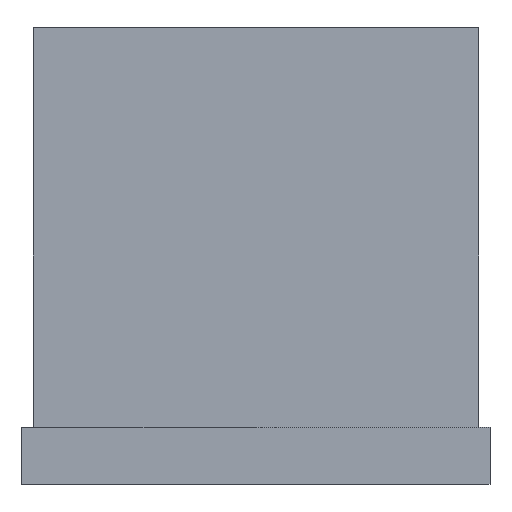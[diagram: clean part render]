
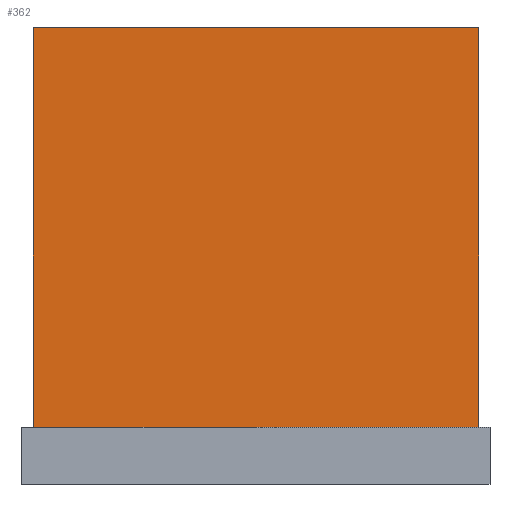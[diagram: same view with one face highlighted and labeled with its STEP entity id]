
A CAD part, front view. The second image highlights one B-rep face of the part: STEP entity #362.
In plain terms, the highlighted planar face has unit normal (0, -1, 0).
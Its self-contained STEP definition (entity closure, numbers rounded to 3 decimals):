
#362=ADVANCED_FACE('',(#761),#763,.T.);
#761=FACE_BOUND('',#762,.T.);
#762=EDGE_LOOP('',(#1224,#1225,#1226,#1227));
#763=PLANE('',#764);
#764=AXIS2_PLACEMENT_3D('',#765,#766,#767);
#765=CARTESIAN_POINT('',(0.,-0.245,0.205));
#766=DIRECTION('',(0.,-1.,0.));
#767=DIRECTION('',(1.,0.,0.));
#1224=ORIENTED_EDGE('',*,*,#1543,.F.);
#1225=ORIENTED_EDGE('',*,*,#1524,.T.);
#1226=ORIENTED_EDGE('',*,*,#1532,.T.);
#1227=ORIENTED_EDGE('',*,*,#1530,.T.);
#1524=EDGE_CURVE('',#1785,#1783,#1786,.T.);
#1530=EDGE_CURVE('',#1795,#1793,#1796,.T.);
#1532=EDGE_CURVE('',#1783,#1795,#1798,.T.);
#1543=EDGE_CURVE('',#1785,#1793,#1815,.T.);
#1783=VERTEX_POINT('',#2152);
#1785=VERTEX_POINT('',#2156);
#1786=LINE('',#2157,#2158);
#1793=VERTEX_POINT('',#2174);
#1795=VERTEX_POINT('',#2178);
#1796=LINE('',#2179,#2180);
#1798=LINE('',#2185,#2186);
#1815=LINE('',#2224,#2225);
#2152=CARTESIAN_POINT('',(0.195,-0.245,0.4));
#2156=CARTESIAN_POINT('',(0.195,-0.245,0.05));
#2157=CARTESIAN_POINT('',(0.195,-0.245,0.05));
#2158=VECTOR('',#2159,1.);
#2159=DIRECTION('',(0.,0.,1.));
#2174=CARTESIAN_POINT('',(-0.195,-0.245,0.05));
#2178=CARTESIAN_POINT('',(-0.195,-0.245,0.4));
#2179=CARTESIAN_POINT('',(-0.195,-0.245,0.4));
#2180=VECTOR('',#2181,1.);
#2181=DIRECTION('',(0.,0.,-1.));
#2185=CARTESIAN_POINT('',(0.195,-0.245,0.4));
#2186=VECTOR('',#2187,1.);
#2187=DIRECTION('',(-1.,0.,0.));
#2224=CARTESIAN_POINT('',(0.195,-0.245,0.05));
#2225=VECTOR('',#2226,1.);
#2226=DIRECTION('',(-1.,0.,0.));
